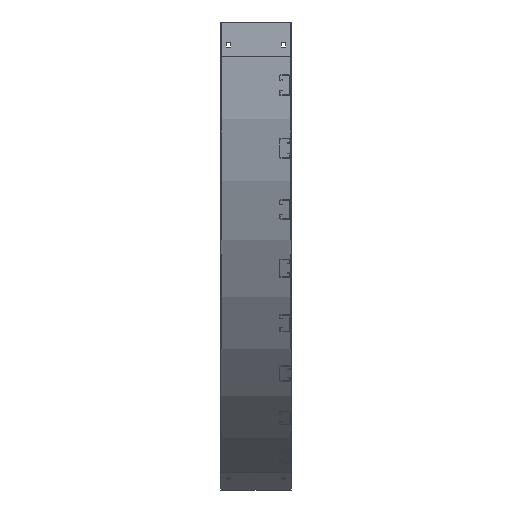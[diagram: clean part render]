
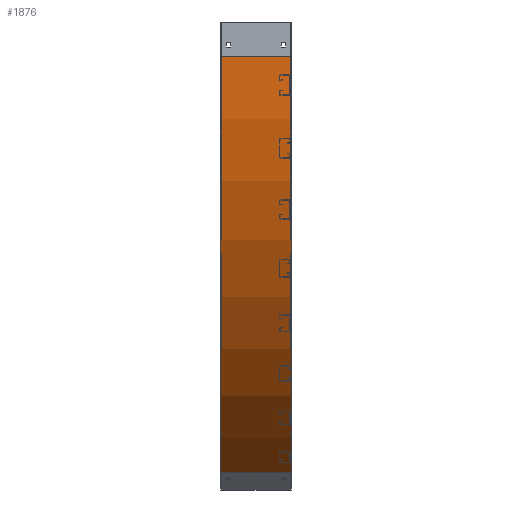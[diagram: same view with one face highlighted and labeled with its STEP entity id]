
A CAD part, left-side view. The second image highlights one B-rep face of the part: STEP entity #1876.
In plain terms, the highlighted cylindrical face has radius 1071.5 mm (diameter 2143 mm), a partial arc.
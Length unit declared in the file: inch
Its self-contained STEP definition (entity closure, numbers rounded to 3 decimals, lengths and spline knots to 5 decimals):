
#1291=CARTESIAN_POINT('',(0.,-42.095,3.));
#1292=DIRECTION('',(1.,0.,0.));
#1293=DIRECTION('',(0.,1.,0.));
#1294=AXIS2_PLACEMENT_3D('',#1291,#1292,#1293);
#1300=DIRECTION('',(-1.,0.,0.));
#1301=VECTOR('',#1300,6.19);
#1302=CARTESIAN_POINT('',(6.19,0.09,3.));
#1303=LINE('',#1302,#1301);
#1304=CARTESIAN_POINT('',(6.19,-42.095,3.));
#1305=DIRECTION('',(1.,0.,0.));
#1306=DIRECTION('',(0.,1.,0.));
#1307=AXIS2_PLACEMENT_3D('',#1304,#1305,#1306);
#1309=DIRECTION('',(-1.,0.,0.));
#1310=VECTOR('',#1309,6.19);
#1311=CARTESIAN_POINT('',(6.19,-21.0025,39.53328));
#1312=LINE('',#1311,#1310);
#1544=CARTESIAN_POINT('',(6.19,0.09,3.));
#1545=CARTESIAN_POINT('',(0.,0.09,3.));
#1546=VERTEX_POINT('',#1544);
#1547=VERTEX_POINT('',#1545);
#1560=CARTESIAN_POINT('',(6.19,-21.0025,39.53328));
#1561=CARTESIAN_POINT('',(0.,-21.0025,39.53328));
#1562=VERTEX_POINT('',#1560);
#1563=VERTEX_POINT('',#1561);
#1864=CARTESIAN_POINT('',(-1.,-42.095,3.));
#1865=DIRECTION('',(1.,0.,0.));
#1866=DIRECTION('',(0.,-1.,0.));
#1867=AXIS2_PLACEMENT_3D('',#1864,#1865,#1866);
#1868=CYLINDRICAL_SURFACE('',#1867,42.185);
#1869=ORIENTED_EDGE('',*,*,#1688,.F.);
#1870=ORIENTED_EDGE('',*,*,#1731,.T.);
#1872=ORIENTED_EDGE('',*,*,#1871,.T.);
#1873=ORIENTED_EDGE('',*,*,#1850,.F.);
#1874=EDGE_LOOP('',(#1869,#1870,#1872,#1873));
#1875=FACE_OUTER_BOUND('',#1874,.F.);
#1876=ADVANCED_FACE('',(#1875),#1868,.T.);
#1295=CIRCLE('',#1294,42.185);
#1308=CIRCLE('',#1307,42.185);
#1688=EDGE_CURVE('',#1546,#1547,#1303,.T.);
#1731=EDGE_CURVE('',#1546,#1562,#1308,.T.);
#1850=EDGE_CURVE('',#1547,#1563,#1295,.T.);
#1871=EDGE_CURVE('',#1562,#1563,#1312,.T.);
